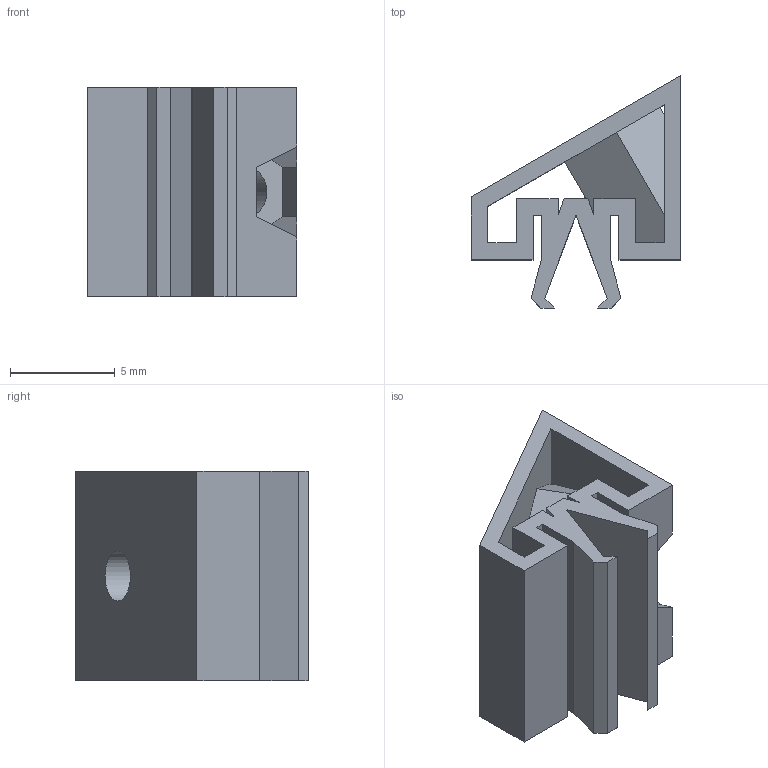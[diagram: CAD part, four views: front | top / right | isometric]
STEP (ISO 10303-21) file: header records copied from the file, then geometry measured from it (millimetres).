
FILE_DESCRIPTION(/* description */ (''),/* implementation_level */ '2;1');
FILE_NAME(/* name */ 'C:/Users/priba/Downloads/brick-spac30deg.step',/* time_stamp */ '2021-10-12T10:50:05+02:00',/* author */ (''),/* organization */ (''),/* preprocessor_version */ 'ST-DEVELOPER v18.1',/* originating_system */ 'Autodesk Translation Framework v10.10.0.1391',/* authorisation */ '');
FILE_SCHEMA (('AUTOMOTIVE_DESIGN { 1 0 10303 214 3 1 1 }'));
Length unit declared in the file: millimetre
Products named in the file (1): brick-spac30deg
Bounding box: 10 x 11.08 x 10 mm (x, y, z)
Volume: 375.1 mm3; surface area: 951.6 mm2
Topology: 1 solids, 1 shells, 58 faces, 177 edges, 118 vertices
Faces by surface type: plane 57, cylinder 1
Full cylindrical faces by diameter (mm): 2.4 x1
Entity records: 1981 total; most frequent: ORIENTED_EDGE 354, CARTESIAN_POINT 354, DIRECTION 297, EDGE_CURVE 177, LINE 175, VECTOR 175, VERTEX_POINT 118, EDGE_LOOP 63
